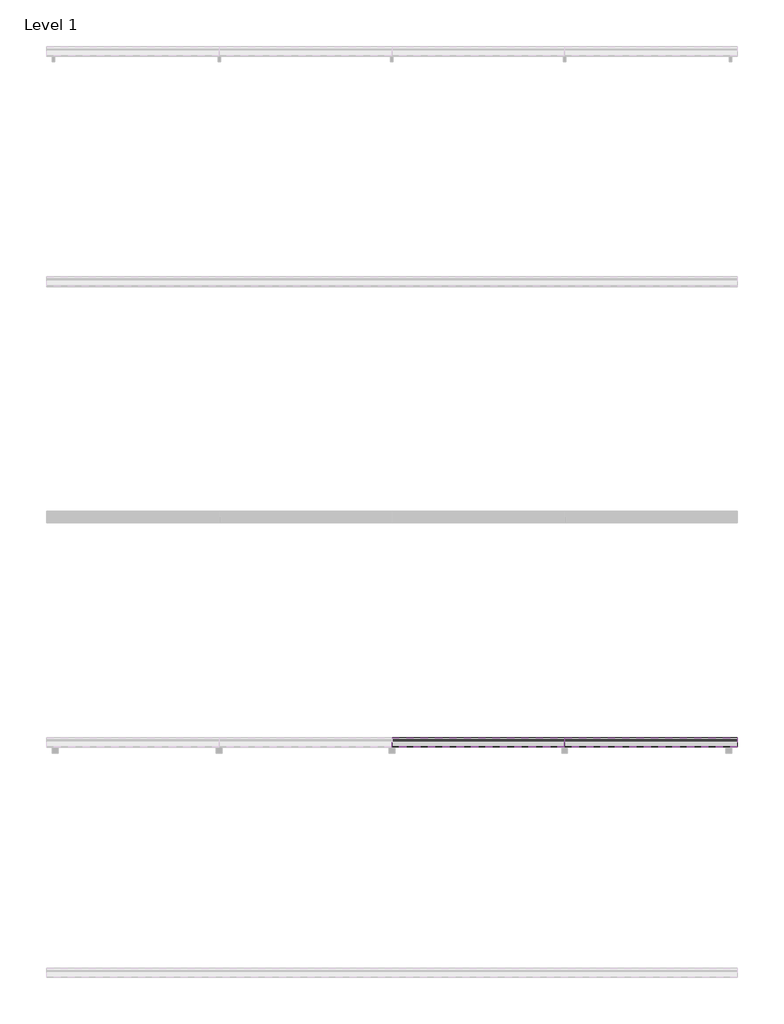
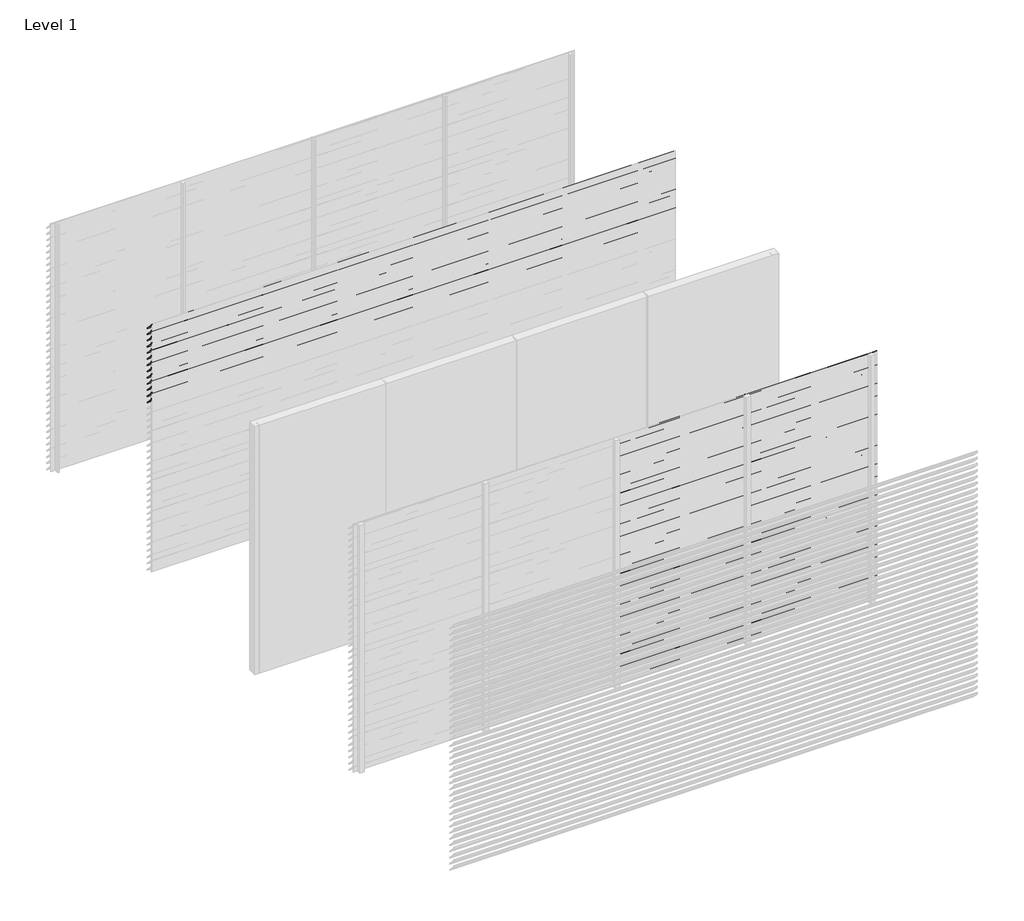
# One storey, part 5 of 9: 94 proxies.
"""IFC4 building model written with IfcOpenShell, lengths in millimetres."""

from ifc_helpers import new_model, si_unit, frame, origin, place, context, project, spatial, polyline, outline, extrude, element, save

model = new_model("IFC4")

# Units and contexts
model_context = context("Model", 3, world=origin())
ifc_project = project(units=[si_unit("LENGTHUNIT", "METRE", prefix="MILLI")], contexts=[model_context])

# Site, building, storey
site = spatial("IfcSite", under=ifc_project)
building = spatial("IfcBuilding", under=site)
storey = spatial("IfcBuildingStorey", under=building, Name="Level 1", Elevation=0.0)

# Proxies
placement = place(None, origin())
element("IfcBuildingElementProxy", 1, Name="Wall Sweeps", at=placement, inside=storey, context=model_context, shape_type="SweptSolid", body=[
    extrude(outline(polyline([(-7995.0, 3000.0), (-7995.0, 2987.7713645), (-7917.0, 2907.0), (-7917.0, 2898.0), (-7997.0, 2980.8424251), (-7997.0, 3000.0), (-7995.0, 3000.0)])), frame((0.0, 0.0, 0.0), z_axis=(1.0, 0.0, 0.0), x_axis=(0.0, 1.0, 0.0)), (0.0, 0.0, 1.0), 6000.0),
])
element("IfcBuildingElementProxy", 2, Name="Wall Sweeps", at=placement, inside=storey, context=model_context, shape_type="SweptSolid", body=[
    extrude(outline(polyline([(-7995.0, 2925.0), (-7995.0, 2912.7713645), (-7917.0, 2832.0), (-7917.0, 2823.0), (-7997.0, 2905.8424251), (-7997.0, 2925.0), (-7995.0, 2925.0)])), frame((0.0, 0.0, 0.0), z_axis=(1.0, 0.0, 0.0), x_axis=(0.0, 1.0, 0.0)), (0.0, 0.0, 1.0), 6000.0),
])
element("IfcBuildingElementProxy", 3, Name="Wall Sweeps", at=placement, inside=storey, context=model_context, shape_type="SweptSolid", body=[
    extrude(outline(polyline([(-7995.0, 2850.0), (-7995.0, 2837.7713645), (-7917.0, 2757.0), (-7917.0, 2748.0), (-7997.0, 2830.8424251), (-7997.0, 2850.0), (-7995.0, 2850.0)])), frame((0.0, 0.0, 0.0), z_axis=(1.0, 0.0, 0.0), x_axis=(0.0, 1.0, 0.0)), (0.0, 0.0, 1.0), 6000.0),
])
element("IfcBuildingElementProxy", 4, Name="Wall Sweeps", at=placement, inside=storey, context=model_context, shape_type="SweptSolid", body=[
    extrude(outline(polyline([(-7995.0, 2775.0), (-7995.0, 2762.7713645), (-7917.0, 2682.0), (-7917.0, 2673.0), (-7997.0, 2755.8424251), (-7997.0, 2775.0), (-7995.0, 2775.0)])), frame((0.0, 0.0, 0.0), z_axis=(1.0, 0.0, 0.0), x_axis=(0.0, 1.0, 0.0)), (0.0, 0.0, 1.0), 6000.0),
])
element("IfcBuildingElementProxy", 5, Name="Wall Sweeps", at=placement, inside=storey, context=model_context, shape_type="SweptSolid", body=[
    extrude(outline(polyline([(-7995.0, 2700.0), (-7995.0, 2687.7713645), (-7917.0, 2607.0), (-7917.0, 2598.0), (-7997.0, 2680.8424251), (-7997.0, 2700.0), (-7995.0, 2700.0)])), frame((0.0, 0.0, 0.0), z_axis=(1.0, 0.0, 0.0), x_axis=(0.0, 1.0, 0.0)), (0.0, 0.0, 1.0), 6000.0),
])
element("IfcBuildingElementProxy", 6, Name="Wall Sweeps", at=placement, inside=storey, context=model_context, shape_type="SweptSolid", body=[
    extrude(outline(polyline([(-7995.0, 2625.0), (-7995.0, 2612.7713645), (-7917.0, 2532.0), (-7917.0, 2523.0), (-7997.0, 2605.8424251), (-7997.0, 2625.0), (-7995.0, 2625.0)])), frame((0.0, 0.0, 0.0), z_axis=(1.0, 0.0, 0.0), x_axis=(0.0, 1.0, 0.0)), (0.0, 0.0, 1.0), 6000.0),
])
element("IfcBuildingElementProxy", 7, Name="Wall Sweeps", at=placement, inside=storey, context=model_context, shape_type="SweptSolid", body=[
    extrude(outline(polyline([(-7995.0, 2550.0), (-7995.0, 2537.7713645), (-7917.0, 2457.0), (-7917.0, 2448.0), (-7997.0, 2530.8424251), (-7997.0, 2550.0), (-7995.0, 2550.0)])), frame((0.0, 0.0, 0.0), z_axis=(1.0, 0.0, 0.0), x_axis=(0.0, 1.0, 0.0)), (0.0, 0.0, 1.0), 6000.0),
])
element("IfcBuildingElementProxy", 8, Name="Wall Sweeps", at=placement, inside=storey, context=model_context, shape_type="SweptSolid", body=[
    extrude(outline(polyline([(-7995.0, 2475.0), (-7995.0, 2462.7713645), (-7917.0, 2382.0), (-7917.0, 2373.0), (-7997.0, 2455.8424251), (-7997.0, 2475.0), (-7995.0, 2475.0)])), frame((0.0, 0.0, 0.0), z_axis=(1.0, 0.0, 0.0), x_axis=(0.0, 1.0, 0.0)), (0.0, 0.0, 1.0), 6000.0),
])
element("IfcBuildingElementProxy", 9, Name="Wall Sweeps", at=placement, inside=storey, context=model_context, shape_type="SweptSolid", body=[
    extrude(outline(polyline([(-7995.0, 2400.0), (-7995.0, 2387.7713645), (-7917.0, 2307.0), (-7917.0, 2298.0), (-7997.0, 2380.8424251), (-7997.0, 2400.0), (-7995.0, 2400.0)])), frame((0.0, 0.0, 0.0), z_axis=(1.0, 0.0, 0.0), x_axis=(0.0, 1.0, 0.0)), (0.0, 0.0, 1.0), 6000.0),
])
element("IfcBuildingElementProxy", 10, Name="Wall Sweeps", at=placement, inside=storey, context=model_context, shape_type="SweptSolid", body=[
    extrude(outline(polyline([(-7995.0, 2325.0), (-7995.0, 2312.7713645), (-7917.0, 2232.0), (-7917.0, 2223.0), (-7997.0, 2305.8424251), (-7997.0, 2325.0), (-7995.0, 2325.0)])), frame((0.0, 0.0, 0.0), z_axis=(1.0, 0.0, 0.0), x_axis=(0.0, 1.0, 0.0)), (0.0, 0.0, 1.0), 6000.0),
])
element("IfcBuildingElementProxy", 11, Name="Wall Sweeps", at=placement, inside=storey, context=model_context, shape_type="SweptSolid", body=[
    extrude(outline(polyline([(-7995.0, 2250.0), (-7995.0, 2237.7713645), (-7917.0, 2157.0), (-7917.0, 2148.0), (-7997.0, 2230.8424251), (-7997.0, 2250.0), (-7995.0, 2250.0)])), frame((0.0, 0.0, 0.0), z_axis=(1.0, 0.0, 0.0), x_axis=(0.0, 1.0, 0.0)), (0.0, 0.0, 1.0), 6000.0),
])
element("IfcBuildingElementProxy", 12, Name="Wall Sweeps", at=placement, inside=storey, context=model_context, shape_type="SweptSolid", body=[
    extrude(outline(polyline([(-7995.0, 2175.0), (-7995.0, 2162.7713645), (-7917.0, 2082.0), (-7917.0, 2073.0), (-7997.0, 2155.8424251), (-7997.0, 2175.0), (-7995.0, 2175.0)])), frame((0.0, 0.0, 0.0), z_axis=(1.0, 0.0, 0.0), x_axis=(0.0, 1.0, 0.0)), (0.0, 0.0, 1.0), 6000.0),
])
element("IfcBuildingElementProxy", 13, Name="Wall Sweeps", at=placement, inside=storey, context=model_context, shape_type="SweptSolid", body=[
    extrude(outline(polyline([(-7995.0, 2100.0), (-7995.0, 2087.7713645), (-7917.0, 2007.0), (-7917.0, 1998.0), (-7997.0, 2080.8424251), (-7997.0, 2100.0), (-7995.0, 2100.0)])), frame((0.0, 0.0, 0.0), z_axis=(1.0, 0.0, 0.0), x_axis=(0.0, 1.0, 0.0)), (0.0, 0.0, 1.0), 6000.0),
])
element("IfcBuildingElementProxy", 14, Name="Wall Sweeps", at=placement, inside=storey, context=model_context, shape_type="SweptSolid", body=[
    extrude(outline(polyline([(-11995.0, 75.0), (-11995.0, 62.7713645), (-11917.0, -18.0), (-11917.0, -27.0), (-11997.0, 55.8424251), (-11997.0, 75.0), (-11995.0, 75.0)])), frame((1500.0, 0.0, 0.0), z_axis=(1.0, 0.0, 0.0), x_axis=(0.0, 1.0, 0.0)), (0.0, 0.0, 1.0), 1500.0),
])
element("IfcBuildingElementProxy", 15, Name="Wall Sweeps", at=placement, inside=storey, context=model_context, shape_type="SweptSolid", body=[
    extrude(outline(polyline([(-11995.0, 3000.0), (-11995.0, 2987.7713645), (-11917.0, 2907.0), (-11917.0, 2898.0), (-11997.0, 2980.8424251), (-11997.0, 3000.0), (-11995.0, 3000.0)])), frame((3000.0, 0.0, 0.0), z_axis=(1.0, 0.0, 0.0), x_axis=(0.0, 1.0, 0.0)), (0.0, 0.0, 1.0), 1500.0),
])
element("IfcBuildingElementProxy", 16, Name="Wall Sweeps", at=placement, inside=storey, context=model_context, shape_type="SweptSolid", body=[
    extrude(outline(polyline([(-11995.0, 2925.0), (-11995.0, 2912.7713645), (-11917.0, 2832.0), (-11917.0, 2823.0), (-11997.0, 2905.8424251), (-11997.0, 2925.0), (-11995.0, 2925.0)])), frame((3000.0, 0.0, 0.0), z_axis=(1.0, 0.0, 0.0), x_axis=(0.0, 1.0, 0.0)), (0.0, 0.0, 1.0), 1500.0),
])
element("IfcBuildingElementProxy", 17, Name="Wall Sweeps", at=placement, inside=storey, context=model_context, shape_type="SweptSolid", body=[
    extrude(outline(polyline([(-11995.0, 2850.0), (-11995.0, 2837.7713645), (-11917.0, 2757.0), (-11917.0, 2748.0), (-11997.0, 2830.8424251), (-11997.0, 2850.0), (-11995.0, 2850.0)])), frame((3000.0, 0.0, 0.0), z_axis=(1.0, 0.0, 0.0), x_axis=(0.0, 1.0, 0.0)), (0.0, 0.0, 1.0), 1500.0),
])
element("IfcBuildingElementProxy", 18, Name="Wall Sweeps", at=placement, inside=storey, context=model_context, shape_type="SweptSolid", body=[
    extrude(outline(polyline([(-11995.0, 2775.0), (-11995.0, 2762.7713645), (-11917.0, 2682.0), (-11917.0, 2673.0), (-11997.0, 2755.8424251), (-11997.0, 2775.0), (-11995.0, 2775.0)])), frame((3000.0, 0.0, 0.0), z_axis=(1.0, 0.0, 0.0), x_axis=(0.0, 1.0, 0.0)), (0.0, 0.0, 1.0), 1500.0),
])
element("IfcBuildingElementProxy", 19, Name="Wall Sweeps", at=placement, inside=storey, context=model_context, shape_type="SweptSolid", body=[
    extrude(outline(polyline([(-11995.0, 2700.0), (-11995.0, 2687.7713645), (-11917.0, 2607.0), (-11917.0, 2598.0), (-11997.0, 2680.8424251), (-11997.0, 2700.0), (-11995.0, 2700.0)])), frame((3000.0, 0.0, 0.0), z_axis=(1.0, 0.0, 0.0), x_axis=(0.0, 1.0, 0.0)), (0.0, 0.0, 1.0), 1500.0),
])
element("IfcBuildingElementProxy", 20, Name="Wall Sweeps", at=placement, inside=storey, context=model_context, shape_type="SweptSolid", body=[
    extrude(outline(polyline([(-11995.0, 2625.0), (-11995.0, 2612.7713645), (-11917.0, 2532.0), (-11917.0, 2523.0), (-11997.0, 2605.8424251), (-11997.0, 2625.0), (-11995.0, 2625.0)])), frame((3000.0, 0.0, 0.0), z_axis=(1.0, 0.0, 0.0), x_axis=(0.0, 1.0, 0.0)), (0.0, 0.0, 1.0), 1500.0),
])
element("IfcBuildingElementProxy", 21, Name="Wall Sweeps", at=placement, inside=storey, context=model_context, shape_type="SweptSolid", body=[
    extrude(outline(polyline([(-11995.0, 2550.0), (-11995.0, 2537.7713645), (-11917.0, 2457.0), (-11917.0, 2448.0), (-11997.0, 2530.8424251), (-11997.0, 2550.0), (-11995.0, 2550.0)])), frame((3000.0, 0.0, 0.0), z_axis=(1.0, 0.0, 0.0), x_axis=(0.0, 1.0, 0.0)), (0.0, 0.0, 1.0), 1500.0),
])
element("IfcBuildingElementProxy", 22, Name="Wall Sweeps", at=placement, inside=storey, context=model_context, shape_type="SweptSolid", body=[
    extrude(outline(polyline([(-11995.0, 2475.0), (-11995.0, 2462.7713645), (-11917.0, 2382.0), (-11917.0, 2373.0), (-11997.0, 2455.8424251), (-11997.0, 2475.0), (-11995.0, 2475.0)])), frame((3000.0, 0.0, 0.0), z_axis=(1.0, 0.0, 0.0), x_axis=(0.0, 1.0, 0.0)), (0.0, 0.0, 1.0), 1500.0),
])
element("IfcBuildingElementProxy", 23, Name="Wall Sweeps", at=placement, inside=storey, context=model_context, shape_type="SweptSolid", body=[
    extrude(outline(polyline([(-11995.0, 2400.0), (-11995.0, 2387.7713645), (-11917.0, 2307.0), (-11917.0, 2298.0), (-11997.0, 2380.8424251), (-11997.0, 2400.0), (-11995.0, 2400.0)])), frame((3000.0, 0.0, 0.0), z_axis=(1.0, 0.0, 0.0), x_axis=(0.0, 1.0, 0.0)), (0.0, 0.0, 1.0), 1500.0),
])
element("IfcBuildingElementProxy", 24, Name="Wall Sweeps", at=placement, inside=storey, context=model_context, shape_type="SweptSolid", body=[
    extrude(outline(polyline([(-11995.0, 2325.0), (-11995.0, 2312.7713645), (-11917.0, 2232.0), (-11917.0, 2223.0), (-11997.0, 2305.8424251), (-11997.0, 2325.0), (-11995.0, 2325.0)])), frame((3000.0, 0.0, 0.0), z_axis=(1.0, 0.0, 0.0), x_axis=(0.0, 1.0, 0.0)), (0.0, 0.0, 1.0), 1500.0),
])
element("IfcBuildingElementProxy", 25, Name="Wall Sweeps", at=placement, inside=storey, context=model_context, shape_type="SweptSolid", body=[
    extrude(outline(polyline([(-11995.0, 2250.0), (-11995.0, 2237.7713645), (-11917.0, 2157.0), (-11917.0, 2148.0), (-11997.0, 2230.8424251), (-11997.0, 2250.0), (-11995.0, 2250.0)])), frame((3000.0, 0.0, 0.0), z_axis=(1.0, 0.0, 0.0), x_axis=(0.0, 1.0, 0.0)), (0.0, 0.0, 1.0), 1500.0),
])
element("IfcBuildingElementProxy", 26, Name="Wall Sweeps", at=placement, inside=storey, context=model_context, shape_type="SweptSolid", body=[
    extrude(outline(polyline([(-11995.0, 2175.0), (-11995.0, 2162.7713645), (-11917.0, 2082.0), (-11917.0, 2073.0), (-11997.0, 2155.8424251), (-11997.0, 2175.0), (-11995.0, 2175.0)])), frame((3000.0, 0.0, 0.0), z_axis=(1.0, 0.0, 0.0), x_axis=(0.0, 1.0, 0.0)), (0.0, 0.0, 1.0), 1500.0),
])
element("IfcBuildingElementProxy", 27, Name="Wall Sweeps", at=placement, inside=storey, context=model_context, shape_type="SweptSolid", body=[
    extrude(outline(polyline([(-11995.0, 2100.0), (-11995.0, 2087.7713645), (-11917.0, 2007.0), (-11917.0, 1998.0), (-11997.0, 2080.8424251), (-11997.0, 2100.0), (-11995.0, 2100.0)])), frame((3000.0, 0.0, 0.0), z_axis=(1.0, 0.0, 0.0), x_axis=(0.0, 1.0, 0.0)), (0.0, 0.0, 1.0), 1500.0),
])
element("IfcBuildingElementProxy", 28, Name="Wall Sweeps", at=placement, inside=storey, context=model_context, shape_type="SweptSolid", body=[
    extrude(outline(polyline([(-11995.0, 2025.0), (-11995.0, 2012.7713645), (-11917.0, 1932.0), (-11917.0, 1923.0), (-11997.0, 2005.8424251), (-11997.0, 2025.0), (-11995.0, 2025.0)])), frame((3000.0, 0.0, 0.0), z_axis=(1.0, 0.0, 0.0), x_axis=(0.0, 1.0, 0.0)), (0.0, 0.0, 1.0), 1500.0),
])
element("IfcBuildingElementProxy", 29, Name="Wall Sweeps", at=placement, inside=storey, context=model_context, shape_type="SweptSolid", body=[
    extrude(outline(polyline([(-11995.0, 1950.0), (-11995.0, 1937.7713645), (-11917.0, 1857.0), (-11917.0, 1848.0), (-11997.0, 1930.8424251), (-11997.0, 1950.0), (-11995.0, 1950.0)])), frame((3000.0, 0.0, 0.0), z_axis=(1.0, 0.0, 0.0), x_axis=(0.0, 1.0, 0.0)), (0.0, 0.0, 1.0), 1500.0),
])
element("IfcBuildingElementProxy", 30, Name="Wall Sweeps", at=placement, inside=storey, context=model_context, shape_type="SweptSolid", body=[
    extrude(outline(polyline([(-11995.0, 1875.0), (-11995.0, 1862.7713645), (-11917.0, 1782.0), (-11917.0, 1773.0), (-11997.0, 1855.8424251), (-11997.0, 1875.0), (-11995.0, 1875.0)])), frame((3000.0, 0.0, 0.0), z_axis=(1.0, 0.0, 0.0), x_axis=(0.0, 1.0, 0.0)), (0.0, 0.0, 1.0), 1500.0),
])
element("IfcBuildingElementProxy", 31, Name="Wall Sweeps", at=placement, inside=storey, context=model_context, shape_type="SweptSolid", body=[
    extrude(outline(polyline([(-11995.0, 1800.0), (-11995.0, 1787.7713645), (-11917.0, 1707.0), (-11917.0, 1698.0), (-11997.0, 1780.8424251), (-11997.0, 1800.0), (-11995.0, 1800.0)])), frame((3000.0, 0.0, 0.0), z_axis=(1.0, 0.0, 0.0), x_axis=(0.0, 1.0, 0.0)), (0.0, 0.0, 1.0), 1500.0),
])
element("IfcBuildingElementProxy", 32, Name="Wall Sweeps", at=placement, inside=storey, context=model_context, shape_type="SweptSolid", body=[
    extrude(outline(polyline([(-11995.0, 1725.0), (-11995.0, 1712.7713645), (-11917.0, 1632.0), (-11917.0, 1623.0), (-11997.0, 1705.8424251), (-11997.0, 1725.0), (-11995.0, 1725.0)])), frame((3000.0, 0.0, 0.0), z_axis=(1.0, 0.0, 0.0), x_axis=(0.0, 1.0, 0.0)), (0.0, 0.0, 1.0), 1500.0),
])
element("IfcBuildingElementProxy", 33, Name="Wall Sweeps", at=placement, inside=storey, context=model_context, shape_type="SweptSolid", body=[
    extrude(outline(polyline([(-11995.0, 1650.0), (-11995.0, 1637.7713645), (-11917.0, 1557.0), (-11917.0, 1548.0), (-11997.0, 1630.8424251), (-11997.0, 1650.0), (-11995.0, 1650.0)])), frame((3000.0, 0.0, 0.0), z_axis=(1.0, 0.0, 0.0), x_axis=(0.0, 1.0, 0.0)), (0.0, 0.0, 1.0), 1500.0),
])
element("IfcBuildingElementProxy", 34, Name="Wall Sweeps", at=placement, inside=storey, context=model_context, shape_type="SweptSolid", body=[
    extrude(outline(polyline([(-11995.0, 1575.0), (-11995.0, 1562.7713645), (-11917.0, 1482.0), (-11917.0, 1473.0), (-11997.0, 1555.8424251), (-11997.0, 1575.0), (-11995.0, 1575.0)])), frame((3000.0, 0.0, 0.0), z_axis=(1.0, 0.0, 0.0), x_axis=(0.0, 1.0, 0.0)), (0.0, 0.0, 1.0), 1500.0),
])
element("IfcBuildingElementProxy", 35, Name="Wall Sweeps", at=placement, inside=storey, context=model_context, shape_type="SweptSolid", body=[
    extrude(outline(polyline([(-11995.0, 1500.0), (-11995.0, 1487.7713645), (-11917.0, 1407.0), (-11917.0, 1398.0), (-11997.0, 1480.8424251), (-11997.0, 1500.0), (-11995.0, 1500.0)])), frame((3000.0, 0.0, 0.0), z_axis=(1.0, 0.0, 0.0), x_axis=(0.0, 1.0, 0.0)), (0.0, 0.0, 1.0), 1500.0),
])
element("IfcBuildingElementProxy", 36, Name="Wall Sweeps", at=placement, inside=storey, context=model_context, shape_type="SweptSolid", body=[
    extrude(outline(polyline([(-11995.0, 1425.0), (-11995.0, 1412.7713645), (-11917.0, 1332.0), (-11917.0, 1323.0), (-11997.0, 1405.8424251), (-11997.0, 1425.0), (-11995.0, 1425.0)])), frame((3000.0, 0.0, 0.0), z_axis=(1.0, 0.0, 0.0), x_axis=(0.0, 1.0, 0.0)), (0.0, 0.0, 1.0), 1500.0),
])
element("IfcBuildingElementProxy", 37, Name="Wall Sweeps", at=placement, inside=storey, context=model_context, shape_type="SweptSolid", body=[
    extrude(outline(polyline([(-11995.0, 1350.0), (-11995.0, 1337.7713645), (-11917.0, 1257.0), (-11917.0, 1248.0), (-11997.0, 1330.8424251), (-11997.0, 1350.0), (-11995.0, 1350.0)])), frame((3000.0, 0.0, 0.0), z_axis=(1.0, 0.0, 0.0), x_axis=(0.0, 1.0, 0.0)), (0.0, 0.0, 1.0), 1500.0),
])
element("IfcBuildingElementProxy", 38, Name="Wall Sweeps", at=placement, inside=storey, context=model_context, shape_type="SweptSolid", body=[
    extrude(outline(polyline([(-11995.0, 1275.0), (-11995.0, 1262.7713645), (-11917.0, 1182.0), (-11917.0, 1173.0), (-11997.0, 1255.8424251), (-11997.0, 1275.0), (-11995.0, 1275.0)])), frame((3000.0, 0.0, 0.0), z_axis=(1.0, 0.0, 0.0), x_axis=(0.0, 1.0, 0.0)), (0.0, 0.0, 1.0), 1500.0),
])
element("IfcBuildingElementProxy", 39, Name="Wall Sweeps", at=placement, inside=storey, context=model_context, shape_type="SweptSolid", body=[
    extrude(outline(polyline([(-11995.0, 1200.0), (-11995.0, 1187.7713645), (-11917.0, 1107.0), (-11917.0, 1098.0), (-11997.0, 1180.8424251), (-11997.0, 1200.0), (-11995.0, 1200.0)])), frame((3000.0, 0.0, 0.0), z_axis=(1.0, 0.0, 0.0), x_axis=(0.0, 1.0, 0.0)), (0.0, 0.0, 1.0), 1500.0),
])
element("IfcBuildingElementProxy", 40, Name="Wall Sweeps", at=placement, inside=storey, context=model_context, shape_type="SweptSolid", body=[
    extrude(outline(polyline([(-11995.0, 1125.0), (-11995.0, 1112.7713645), (-11917.0, 1032.0), (-11917.0, 1023.0), (-11997.0, 1105.8424251), (-11997.0, 1125.0), (-11995.0, 1125.0)])), frame((3000.0, 0.0, 0.0), z_axis=(1.0, 0.0, 0.0), x_axis=(0.0, 1.0, 0.0)), (0.0, 0.0, 1.0), 1500.0),
])
element("IfcBuildingElementProxy", 41, Name="Wall Sweeps", at=placement, inside=storey, context=model_context, shape_type="SweptSolid", body=[
    extrude(outline(polyline([(-11995.0, 1050.0), (-11995.0, 1037.7713645), (-11917.0, 957.0), (-11917.0, 948.0), (-11997.0, 1030.8424251), (-11997.0, 1050.0), (-11995.0, 1050.0)])), frame((3000.0, 0.0, 0.0), z_axis=(1.0, 0.0, 0.0), x_axis=(0.0, 1.0, 0.0)), (0.0, 0.0, 1.0), 1500.0),
])
element("IfcBuildingElementProxy", 42, Name="Wall Sweeps", at=placement, inside=storey, context=model_context, shape_type="SweptSolid", body=[
    extrude(outline(polyline([(-11995.0, 975.0), (-11995.0, 962.7713645), (-11917.0, 882.0), (-11917.0, 873.0), (-11997.0, 955.8424251), (-11997.0, 975.0), (-11995.0, 975.0)])), frame((3000.0, 0.0, 0.0), z_axis=(1.0, 0.0, 0.0), x_axis=(0.0, 1.0, 0.0)), (0.0, 0.0, 1.0), 1500.0),
])
element("IfcBuildingElementProxy", 43, Name="Wall Sweeps", at=placement, inside=storey, context=model_context, shape_type="SweptSolid", body=[
    extrude(outline(polyline([(-11995.0, 900.0), (-11995.0, 887.7713645), (-11917.0, 807.0), (-11917.0, 798.0), (-11997.0, 880.8424251), (-11997.0, 900.0), (-11995.0, 900.0)])), frame((3000.0, 0.0, 0.0), z_axis=(1.0, 0.0, 0.0), x_axis=(0.0, 1.0, 0.0)), (0.0, 0.0, 1.0), 1500.0),
])
element("IfcBuildingElementProxy", 44, Name="Wall Sweeps", at=placement, inside=storey, context=model_context, shape_type="SweptSolid", body=[
    extrude(outline(polyline([(-11995.0, 825.0), (-11995.0, 812.7713645), (-11917.0, 732.0), (-11917.0, 723.0), (-11997.0, 805.8424251), (-11997.0, 825.0), (-11995.0, 825.0)])), frame((3000.0, 0.0, 0.0), z_axis=(1.0, 0.0, 0.0), x_axis=(0.0, 1.0, 0.0)), (0.0, 0.0, 1.0), 1500.0),
])
element("IfcBuildingElementProxy", 45, Name="Wall Sweeps", at=placement, inside=storey, context=model_context, shape_type="SweptSolid", body=[
    extrude(outline(polyline([(-11995.0, 750.0), (-11995.0, 737.7713645), (-11917.0, 657.0), (-11917.0, 648.0), (-11997.0, 730.8424251), (-11997.0, 750.0), (-11995.0, 750.0)])), frame((3000.0, 0.0, 0.0), z_axis=(1.0, 0.0, 0.0), x_axis=(0.0, 1.0, 0.0)), (0.0, 0.0, 1.0), 1500.0),
])
element("IfcBuildingElementProxy", 46, Name="Wall Sweeps", at=placement, inside=storey, context=model_context, shape_type="SweptSolid", body=[
    extrude(outline(polyline([(-11995.0, 675.0), (-11995.0, 662.7713645), (-11917.0, 582.0), (-11917.0, 573.0), (-11997.0, 655.8424251), (-11997.0, 675.0), (-11995.0, 675.0)])), frame((3000.0, 0.0, 0.0), z_axis=(1.0, 0.0, 0.0), x_axis=(0.0, 1.0, 0.0)), (0.0, 0.0, 1.0), 1500.0),
])
element("IfcBuildingElementProxy", 47, Name="Wall Sweeps", at=placement, inside=storey, context=model_context, shape_type="SweptSolid", body=[
    extrude(outline(polyline([(-11995.0, 600.0), (-11995.0, 587.7713645), (-11917.0, 507.0), (-11917.0, 498.0), (-11997.0, 580.8424251), (-11997.0, 600.0), (-11995.0, 600.0)])), frame((3000.0, 0.0, 0.0), z_axis=(1.0, 0.0, 0.0), x_axis=(0.0, 1.0, 0.0)), (0.0, 0.0, 1.0), 1500.0),
])
element("IfcBuildingElementProxy", 48, Name="Wall Sweeps", at=placement, inside=storey, context=model_context, shape_type="SweptSolid", body=[
    extrude(outline(polyline([(-11995.0, 525.0), (-11995.0, 512.7713645), (-11917.0, 432.0), (-11917.0, 423.0), (-11997.0, 505.8424251), (-11997.0, 525.0), (-11995.0, 525.0)])), frame((3000.0, 0.0, 0.0), z_axis=(1.0, 0.0, 0.0), x_axis=(0.0, 1.0, 0.0)), (0.0, 0.0, 1.0), 1500.0),
])
element("IfcBuildingElementProxy", 49, Name="Wall Sweeps", at=placement, inside=storey, context=model_context, shape_type="SweptSolid", body=[
    extrude(outline(polyline([(-11995.0, 450.0), (-11995.0, 437.7713645), (-11917.0, 357.0), (-11917.0, 348.0), (-11997.0, 430.8424251), (-11997.0, 450.0), (-11995.0, 450.0)])), frame((3000.0, 0.0, 0.0), z_axis=(1.0, 0.0, 0.0), x_axis=(0.0, 1.0, 0.0)), (0.0, 0.0, 1.0), 1500.0),
])
element("IfcBuildingElementProxy", 50, Name="Wall Sweeps", at=placement, inside=storey, context=model_context, shape_type="SweptSolid", body=[
    extrude(outline(polyline([(-11995.0, 375.0), (-11995.0, 362.7713645), (-11917.0, 282.0), (-11917.0, 273.0), (-11997.0, 355.8424251), (-11997.0, 375.0), (-11995.0, 375.0)])), frame((3000.0, 0.0, 0.0), z_axis=(1.0, 0.0, 0.0), x_axis=(0.0, 1.0, 0.0)), (0.0, 0.0, 1.0), 1500.0),
])
element("IfcBuildingElementProxy", 51, Name="Wall Sweeps", at=placement, inside=storey, context=model_context, shape_type="SweptSolid", body=[
    extrude(outline(polyline([(-11995.0, 300.0), (-11995.0, 287.7713645), (-11917.0, 207.0), (-11917.0, 198.0), (-11997.0, 280.8424251), (-11997.0, 300.0), (-11995.0, 300.0)])), frame((3000.0, 0.0, 0.0), z_axis=(1.0, 0.0, 0.0), x_axis=(0.0, 1.0, 0.0)), (0.0, 0.0, 1.0), 1500.0),
])
element("IfcBuildingElementProxy", 52, Name="Wall Sweeps", at=placement, inside=storey, context=model_context, shape_type="SweptSolid", body=[
    extrude(outline(polyline([(-11995.0, 225.0), (-11995.0, 212.7713645), (-11917.0, 132.0), (-11917.0, 123.0), (-11997.0, 205.8424251), (-11997.0, 225.0), (-11995.0, 225.0)])), frame((3000.0, 0.0, 0.0), z_axis=(1.0, 0.0, 0.0), x_axis=(0.0, 1.0, 0.0)), (0.0, 0.0, 1.0), 1500.0),
])
element("IfcBuildingElementProxy", 53, Name="Wall Sweeps", at=placement, inside=storey, context=model_context, shape_type="SweptSolid", body=[
    extrude(outline(polyline([(-11995.0, 150.0), (-11995.0, 137.7713645), (-11917.0, 57.0), (-11917.0, 48.0), (-11997.0, 130.8424251), (-11997.0, 150.0), (-11995.0, 150.0)])), frame((3000.0, 0.0, 0.0), z_axis=(1.0, 0.0, 0.0), x_axis=(0.0, 1.0, 0.0)), (0.0, 0.0, 1.0), 1500.0),
])
element("IfcBuildingElementProxy", 54, Name="Wall Sweeps", at=placement, inside=storey, context=model_context, shape_type="SweptSolid", body=[
    extrude(outline(polyline([(-11995.0, 75.0), (-11995.0, 62.7713645), (-11917.0, -18.0), (-11917.0, -27.0), (-11997.0, 55.8424251), (-11997.0, 75.0), (-11995.0, 75.0)])), frame((3000.0, 0.0, 0.0), z_axis=(1.0, 0.0, 0.0), x_axis=(0.0, 1.0, 0.0)), (0.0, 0.0, 1.0), 1500.0),
])
element("IfcBuildingElementProxy", 55, Name="Wall Sweeps", at=placement, inside=storey, context=model_context, shape_type="SweptSolid", body=[
    extrude(outline(polyline([(-11995.0, 3000.0), (-11995.0, 2987.7713645), (-11917.0, 2907.0), (-11917.0, 2898.0), (-11997.0, 2980.8424251), (-11997.0, 3000.0), (-11995.0, 3000.0)])), frame((4500.0, 0.0, 0.0), z_axis=(1.0, 0.0, 0.0), x_axis=(0.0, 1.0, 0.0)), (0.0, 0.0, 1.0), 1500.0),
])
element("IfcBuildingElementProxy", 56, Name="Wall Sweeps", at=placement, inside=storey, context=model_context, shape_type="SweptSolid", body=[
    extrude(outline(polyline([(-11995.0, 2925.0), (-11995.0, 2912.7713645), (-11917.0, 2832.0), (-11917.0, 2823.0), (-11997.0, 2905.8424251), (-11997.0, 2925.0), (-11995.0, 2925.0)])), frame((4500.0, 0.0, 0.0), z_axis=(1.0, 0.0, 0.0), x_axis=(0.0, 1.0, 0.0)), (0.0, 0.0, 1.0), 1500.0),
])
element("IfcBuildingElementProxy", 57, Name="Wall Sweeps", at=placement, inside=storey, context=model_context, shape_type="SweptSolid", body=[
    extrude(outline(polyline([(-11995.0, 2850.0), (-11995.0, 2837.7713645), (-11917.0, 2757.0), (-11917.0, 2748.0), (-11997.0, 2830.8424251), (-11997.0, 2850.0), (-11995.0, 2850.0)])), frame((4500.0, 0.0, 0.0), z_axis=(1.0, 0.0, 0.0), x_axis=(0.0, 1.0, 0.0)), (0.0, 0.0, 1.0), 1500.0),
])
element("IfcBuildingElementProxy", 58, Name="Wall Sweeps", at=placement, inside=storey, context=model_context, shape_type="SweptSolid", body=[
    extrude(outline(polyline([(-11995.0, 2775.0), (-11995.0, 2762.7713645), (-11917.0, 2682.0), (-11917.0, 2673.0), (-11997.0, 2755.8424251), (-11997.0, 2775.0), (-11995.0, 2775.0)])), frame((4500.0, 0.0, 0.0), z_axis=(1.0, 0.0, 0.0), x_axis=(0.0, 1.0, 0.0)), (0.0, 0.0, 1.0), 1500.0),
])
element("IfcBuildingElementProxy", 59, Name="Wall Sweeps", at=placement, inside=storey, context=model_context, shape_type="SweptSolid", body=[
    extrude(outline(polyline([(-11995.0, 2700.0), (-11995.0, 2687.7713645), (-11917.0, 2607.0), (-11917.0, 2598.0), (-11997.0, 2680.8424251), (-11997.0, 2700.0), (-11995.0, 2700.0)])), frame((4500.0, 0.0, 0.0), z_axis=(1.0, 0.0, 0.0), x_axis=(0.0, 1.0, 0.0)), (0.0, 0.0, 1.0), 1500.0),
])
element("IfcBuildingElementProxy", 60, Name="Wall Sweeps", at=placement, inside=storey, context=model_context, shape_type="SweptSolid", body=[
    extrude(outline(polyline([(-11995.0, 2625.0), (-11995.0, 2612.7713645), (-11917.0, 2532.0), (-11917.0, 2523.0), (-11997.0, 2605.8424251), (-11997.0, 2625.0), (-11995.0, 2625.0)])), frame((4500.0, 0.0, 0.0), z_axis=(1.0, 0.0, 0.0), x_axis=(0.0, 1.0, 0.0)), (0.0, 0.0, 1.0), 1500.0),
])
element("IfcBuildingElementProxy", 61, Name="Wall Sweeps", at=placement, inside=storey, context=model_context, shape_type="SweptSolid", body=[
    extrude(outline(polyline([(-11995.0, 2550.0), (-11995.0, 2537.7713645), (-11917.0, 2457.0), (-11917.0, 2448.0), (-11997.0, 2530.8424251), (-11997.0, 2550.0), (-11995.0, 2550.0)])), frame((4500.0, 0.0, 0.0), z_axis=(1.0, 0.0, 0.0), x_axis=(0.0, 1.0, 0.0)), (0.0, 0.0, 1.0), 1500.0),
])
element("IfcBuildingElementProxy", 62, Name="Wall Sweeps", at=placement, inside=storey, context=model_context, shape_type="SweptSolid", body=[
    extrude(outline(polyline([(-11995.0, 2475.0), (-11995.0, 2462.7713645), (-11917.0, 2382.0), (-11917.0, 2373.0), (-11997.0, 2455.8424251), (-11997.0, 2475.0), (-11995.0, 2475.0)])), frame((4500.0, 0.0, 0.0), z_axis=(1.0, 0.0, 0.0), x_axis=(0.0, 1.0, 0.0)), (0.0, 0.0, 1.0), 1500.0),
])
element("IfcBuildingElementProxy", 63, Name="Wall Sweeps", at=placement, inside=storey, context=model_context, shape_type="SweptSolid", body=[
    extrude(outline(polyline([(-11995.0, 2400.0), (-11995.0, 2387.7713645), (-11917.0, 2307.0), (-11917.0, 2298.0), (-11997.0, 2380.8424251), (-11997.0, 2400.0), (-11995.0, 2400.0)])), frame((4500.0, 0.0, 0.0), z_axis=(1.0, 0.0, 0.0), x_axis=(0.0, 1.0, 0.0)), (0.0, 0.0, 1.0), 1500.0),
])
element("IfcBuildingElementProxy", 64, Name="Wall Sweeps", at=placement, inside=storey, context=model_context, shape_type="SweptSolid", body=[
    extrude(outline(polyline([(-11995.0, 2325.0), (-11995.0, 2312.7713645), (-11917.0, 2232.0), (-11917.0, 2223.0), (-11997.0, 2305.8424251), (-11997.0, 2325.0), (-11995.0, 2325.0)])), frame((4500.0, 0.0, 0.0), z_axis=(1.0, 0.0, 0.0), x_axis=(0.0, 1.0, 0.0)), (0.0, 0.0, 1.0), 1500.0),
])
element("IfcBuildingElementProxy", 65, Name="Wall Sweeps", at=placement, inside=storey, context=model_context, shape_type="SweptSolid", body=[
    extrude(outline(polyline([(-11995.0, 2250.0), (-11995.0, 2237.7713645), (-11917.0, 2157.0), (-11917.0, 2148.0), (-11997.0, 2230.8424251), (-11997.0, 2250.0), (-11995.0, 2250.0)])), frame((4500.0, 0.0, 0.0), z_axis=(1.0, 0.0, 0.0), x_axis=(0.0, 1.0, 0.0)), (0.0, 0.0, 1.0), 1500.0),
])
element("IfcBuildingElementProxy", 66, Name="Wall Sweeps", at=placement, inside=storey, context=model_context, shape_type="SweptSolid", body=[
    extrude(outline(polyline([(-11995.0, 2175.0), (-11995.0, 2162.7713645), (-11917.0, 2082.0), (-11917.0, 2073.0), (-11997.0, 2155.8424251), (-11997.0, 2175.0), (-11995.0, 2175.0)])), frame((4500.0, 0.0, 0.0), z_axis=(1.0, 0.0, 0.0), x_axis=(0.0, 1.0, 0.0)), (0.0, 0.0, 1.0), 1500.0),
])
element("IfcBuildingElementProxy", 67, Name="Wall Sweeps", at=placement, inside=storey, context=model_context, shape_type="SweptSolid", body=[
    extrude(outline(polyline([(-11995.0, 2100.0), (-11995.0, 2087.7713645), (-11917.0, 2007.0), (-11917.0, 1998.0), (-11997.0, 2080.8424251), (-11997.0, 2100.0), (-11995.0, 2100.0)])), frame((4500.0, 0.0, 0.0), z_axis=(1.0, 0.0, 0.0), x_axis=(0.0, 1.0, 0.0)), (0.0, 0.0, 1.0), 1500.0),
])
element("IfcBuildingElementProxy", 68, Name="Wall Sweeps", at=placement, inside=storey, context=model_context, shape_type="SweptSolid", body=[
    extrude(outline(polyline([(-11995.0, 2025.0), (-11995.0, 2012.7713645), (-11917.0, 1932.0), (-11917.0, 1923.0), (-11997.0, 2005.8424251), (-11997.0, 2025.0), (-11995.0, 2025.0)])), frame((4500.0, 0.0, 0.0), z_axis=(1.0, 0.0, 0.0), x_axis=(0.0, 1.0, 0.0)), (0.0, 0.0, 1.0), 1500.0),
])
element("IfcBuildingElementProxy", 69, Name="Wall Sweeps", at=placement, inside=storey, context=model_context, shape_type="SweptSolid", body=[
    extrude(outline(polyline([(-11995.0, 1950.0), (-11995.0, 1937.7713645), (-11917.0, 1857.0), (-11917.0, 1848.0), (-11997.0, 1930.8424251), (-11997.0, 1950.0), (-11995.0, 1950.0)])), frame((4500.0, 0.0, 0.0), z_axis=(1.0, 0.0, 0.0), x_axis=(0.0, 1.0, 0.0)), (0.0, 0.0, 1.0), 1500.0),
])
element("IfcBuildingElementProxy", 70, Name="Wall Sweeps", at=placement, inside=storey, context=model_context, shape_type="SweptSolid", body=[
    extrude(outline(polyline([(-11995.0, 1875.0), (-11995.0, 1862.7713645), (-11917.0, 1782.0), (-11917.0, 1773.0), (-11997.0, 1855.8424251), (-11997.0, 1875.0), (-11995.0, 1875.0)])), frame((4500.0, 0.0, 0.0), z_axis=(1.0, 0.0, 0.0), x_axis=(0.0, 1.0, 0.0)), (0.0, 0.0, 1.0), 1500.0),
])
element("IfcBuildingElementProxy", 71, Name="Wall Sweeps", at=placement, inside=storey, context=model_context, shape_type="SweptSolid", body=[
    extrude(outline(polyline([(-11995.0, 1800.0), (-11995.0, 1787.7713645), (-11917.0, 1707.0), (-11917.0, 1698.0), (-11997.0, 1780.8424251), (-11997.0, 1800.0), (-11995.0, 1800.0)])), frame((4500.0, 0.0, 0.0), z_axis=(1.0, 0.0, 0.0), x_axis=(0.0, 1.0, 0.0)), (0.0, 0.0, 1.0), 1500.0),
])
element("IfcBuildingElementProxy", 72, Name="Wall Sweeps", at=placement, inside=storey, context=model_context, shape_type="SweptSolid", body=[
    extrude(outline(polyline([(-11995.0, 1725.0), (-11995.0, 1712.7713645), (-11917.0, 1632.0), (-11917.0, 1623.0), (-11997.0, 1705.8424251), (-11997.0, 1725.0), (-11995.0, 1725.0)])), frame((4500.0, 0.0, 0.0), z_axis=(1.0, 0.0, 0.0), x_axis=(0.0, 1.0, 0.0)), (0.0, 0.0, 1.0), 1500.0),
])
element("IfcBuildingElementProxy", 73, Name="Wall Sweeps", at=placement, inside=storey, context=model_context, shape_type="SweptSolid", body=[
    extrude(outline(polyline([(-11995.0, 1650.0), (-11995.0, 1637.7713645), (-11917.0, 1557.0), (-11917.0, 1548.0), (-11997.0, 1630.8424251), (-11997.0, 1650.0), (-11995.0, 1650.0)])), frame((4500.0, 0.0, 0.0), z_axis=(1.0, 0.0, 0.0), x_axis=(0.0, 1.0, 0.0)), (0.0, 0.0, 1.0), 1500.0),
])
element("IfcBuildingElementProxy", 74, Name="Wall Sweeps", at=placement, inside=storey, context=model_context, shape_type="SweptSolid", body=[
    extrude(outline(polyline([(-11995.0, 1575.0), (-11995.0, 1562.7713645), (-11917.0, 1482.0), (-11917.0, 1473.0), (-11997.0, 1555.8424251), (-11997.0, 1575.0), (-11995.0, 1575.0)])), frame((4500.0, 0.0, 0.0), z_axis=(1.0, 0.0, 0.0), x_axis=(0.0, 1.0, 0.0)), (0.0, 0.0, 1.0), 1500.0),
])
element("IfcBuildingElementProxy", 75, Name="Wall Sweeps", at=placement, inside=storey, context=model_context, shape_type="SweptSolid", body=[
    extrude(outline(polyline([(-11995.0, 1500.0), (-11995.0, 1487.7713645), (-11917.0, 1407.0), (-11917.0, 1398.0), (-11997.0, 1480.8424251), (-11997.0, 1500.0), (-11995.0, 1500.0)])), frame((4500.0, 0.0, 0.0), z_axis=(1.0, 0.0, 0.0), x_axis=(0.0, 1.0, 0.0)), (0.0, 0.0, 1.0), 1500.0),
])
element("IfcBuildingElementProxy", 76, Name="Wall Sweeps", at=placement, inside=storey, context=model_context, shape_type="SweptSolid", body=[
    extrude(outline(polyline([(-11995.0, 1425.0), (-11995.0, 1412.7713645), (-11917.0, 1332.0), (-11917.0, 1323.0), (-11997.0, 1405.8424251), (-11997.0, 1425.0), (-11995.0, 1425.0)])), frame((4500.0, 0.0, 0.0), z_axis=(1.0, 0.0, 0.0), x_axis=(0.0, 1.0, 0.0)), (0.0, 0.0, 1.0), 1500.0),
])
element("IfcBuildingElementProxy", 77, Name="Wall Sweeps", at=placement, inside=storey, context=model_context, shape_type="SweptSolid", body=[
    extrude(outline(polyline([(-11995.0, 1350.0), (-11995.0, 1337.7713645), (-11917.0, 1257.0), (-11917.0, 1248.0), (-11997.0, 1330.8424251), (-11997.0, 1350.0), (-11995.0, 1350.0)])), frame((4500.0, 0.0, 0.0), z_axis=(1.0, 0.0, 0.0), x_axis=(0.0, 1.0, 0.0)), (0.0, 0.0, 1.0), 1500.0),
])
element("IfcBuildingElementProxy", 78, Name="Wall Sweeps", at=placement, inside=storey, context=model_context, shape_type="SweptSolid", body=[
    extrude(outline(polyline([(-11995.0, 1275.0), (-11995.0, 1262.7713645), (-11917.0, 1182.0), (-11917.0, 1173.0), (-11997.0, 1255.8424251), (-11997.0, 1275.0), (-11995.0, 1275.0)])), frame((4500.0, 0.0, 0.0), z_axis=(1.0, 0.0, 0.0), x_axis=(0.0, 1.0, 0.0)), (0.0, 0.0, 1.0), 1500.0),
])
element("IfcBuildingElementProxy", 79, Name="Wall Sweeps", at=placement, inside=storey, context=model_context, shape_type="SweptSolid", body=[
    extrude(outline(polyline([(-11995.0, 1200.0), (-11995.0, 1187.7713645), (-11917.0, 1107.0), (-11917.0, 1098.0), (-11997.0, 1180.8424251), (-11997.0, 1200.0), (-11995.0, 1200.0)])), frame((4500.0, 0.0, 0.0), z_axis=(1.0, 0.0, 0.0), x_axis=(0.0, 1.0, 0.0)), (0.0, 0.0, 1.0), 1500.0),
])
element("IfcBuildingElementProxy", 80, Name="Wall Sweeps", at=placement, inside=storey, context=model_context, shape_type="SweptSolid", body=[
    extrude(outline(polyline([(-11995.0, 1125.0), (-11995.0, 1112.7713645), (-11917.0, 1032.0), (-11917.0, 1023.0), (-11997.0, 1105.8424251), (-11997.0, 1125.0), (-11995.0, 1125.0)])), frame((4500.0, 0.0, 0.0), z_axis=(1.0, 0.0, 0.0), x_axis=(0.0, 1.0, 0.0)), (0.0, 0.0, 1.0), 1500.0),
])
element("IfcBuildingElementProxy", 81, Name="Wall Sweeps", at=placement, inside=storey, context=model_context, shape_type="SweptSolid", body=[
    extrude(outline(polyline([(-11995.0, 1050.0), (-11995.0, 1037.7713645), (-11917.0, 957.0), (-11917.0, 948.0), (-11997.0, 1030.8424251), (-11997.0, 1050.0), (-11995.0, 1050.0)])), frame((4500.0, 0.0, 0.0), z_axis=(1.0, 0.0, 0.0), x_axis=(0.0, 1.0, 0.0)), (0.0, 0.0, 1.0), 1500.0),
])
element("IfcBuildingElementProxy", 82, Name="Wall Sweeps", at=placement, inside=storey, context=model_context, shape_type="SweptSolid", body=[
    extrude(outline(polyline([(-11995.0, 975.0), (-11995.0, 962.7713645), (-11917.0, 882.0), (-11917.0, 873.0), (-11997.0, 955.8424251), (-11997.0, 975.0), (-11995.0, 975.0)])), frame((4500.0, 0.0, 0.0), z_axis=(1.0, 0.0, 0.0), x_axis=(0.0, 1.0, 0.0)), (0.0, 0.0, 1.0), 1500.0),
])
element("IfcBuildingElementProxy", 83, Name="Wall Sweeps", at=placement, inside=storey, context=model_context, shape_type="SweptSolid", body=[
    extrude(outline(polyline([(-11995.0, 900.0), (-11995.0, 887.7713645), (-11917.0, 807.0), (-11917.0, 798.0), (-11997.0, 880.8424251), (-11997.0, 900.0), (-11995.0, 900.0)])), frame((4500.0, 0.0, 0.0), z_axis=(1.0, 0.0, 0.0), x_axis=(0.0, 1.0, 0.0)), (0.0, 0.0, 1.0), 1500.0),
])
element("IfcBuildingElementProxy", 84, Name="Wall Sweeps", at=placement, inside=storey, context=model_context, shape_type="SweptSolid", body=[
    extrude(outline(polyline([(-11995.0, 825.0), (-11995.0, 812.7713645), (-11917.0, 732.0), (-11917.0, 723.0), (-11997.0, 805.8424251), (-11997.0, 825.0), (-11995.0, 825.0)])), frame((4500.0, 0.0, 0.0), z_axis=(1.0, 0.0, 0.0), x_axis=(0.0, 1.0, 0.0)), (0.0, 0.0, 1.0), 1500.0),
])
element("IfcBuildingElementProxy", 85, Name="Wall Sweeps", at=placement, inside=storey, context=model_context, shape_type="SweptSolid", body=[
    extrude(outline(polyline([(-11995.0, 750.0), (-11995.0, 737.7713645), (-11917.0, 657.0), (-11917.0, 648.0), (-11997.0, 730.8424251), (-11997.0, 750.0), (-11995.0, 750.0)])), frame((4500.0, 0.0, 0.0), z_axis=(1.0, 0.0, 0.0), x_axis=(0.0, 1.0, 0.0)), (0.0, 0.0, 1.0), 1500.0),
])
element("IfcBuildingElementProxy", 86, Name="Wall Sweeps", at=placement, inside=storey, context=model_context, shape_type="SweptSolid", body=[
    extrude(outline(polyline([(-11995.0, 675.0), (-11995.0, 662.7713645), (-11917.0, 582.0), (-11917.0, 573.0), (-11997.0, 655.8424251), (-11997.0, 675.0), (-11995.0, 675.0)])), frame((4500.0, 0.0, 0.0), z_axis=(1.0, 0.0, 0.0), x_axis=(0.0, 1.0, 0.0)), (0.0, 0.0, 1.0), 1500.0),
])
element("IfcBuildingElementProxy", 87, Name="Wall Sweeps", at=placement, inside=storey, context=model_context, shape_type="SweptSolid", body=[
    extrude(outline(polyline([(-11995.0, 600.0), (-11995.0, 587.7713645), (-11917.0, 507.0), (-11917.0, 498.0), (-11997.0, 580.8424251), (-11997.0, 600.0), (-11995.0, 600.0)])), frame((4500.0, 0.0, 0.0), z_axis=(1.0, 0.0, 0.0), x_axis=(0.0, 1.0, 0.0)), (0.0, 0.0, 1.0), 1500.0),
])
element("IfcBuildingElementProxy", 88, Name="Wall Sweeps", at=placement, inside=storey, context=model_context, shape_type="SweptSolid", body=[
    extrude(outline(polyline([(-11995.0, 525.0), (-11995.0, 512.7713645), (-11917.0, 432.0), (-11917.0, 423.0), (-11997.0, 505.8424251), (-11997.0, 525.0), (-11995.0, 525.0)])), frame((4500.0, 0.0, 0.0), z_axis=(1.0, 0.0, 0.0), x_axis=(0.0, 1.0, 0.0)), (0.0, 0.0, 1.0), 1500.0),
])
element("IfcBuildingElementProxy", 89, Name="Wall Sweeps", at=placement, inside=storey, context=model_context, shape_type="SweptSolid", body=[
    extrude(outline(polyline([(-11995.0, 450.0), (-11995.0, 437.7713645), (-11917.0, 357.0), (-11917.0, 348.0), (-11997.0, 430.8424251), (-11997.0, 450.0), (-11995.0, 450.0)])), frame((4500.0, 0.0, 0.0), z_axis=(1.0, 0.0, 0.0), x_axis=(0.0, 1.0, 0.0)), (0.0, 0.0, 1.0), 1500.0),
])
element("IfcBuildingElementProxy", 90, Name="Wall Sweeps", at=placement, inside=storey, context=model_context, shape_type="SweptSolid", body=[
    extrude(outline(polyline([(-11995.0, 375.0), (-11995.0, 362.7713645), (-11917.0, 282.0), (-11917.0, 273.0), (-11997.0, 355.8424251), (-11997.0, 375.0), (-11995.0, 375.0)])), frame((4500.0, 0.0, 0.0), z_axis=(1.0, 0.0, 0.0), x_axis=(0.0, 1.0, 0.0)), (0.0, 0.0, 1.0), 1500.0),
])
element("IfcBuildingElementProxy", 91, Name="Wall Sweeps", at=placement, inside=storey, context=model_context, shape_type="SweptSolid", body=[
    extrude(outline(polyline([(-11995.0, 300.0), (-11995.0, 287.7713645), (-11917.0, 207.0), (-11917.0, 198.0), (-11997.0, 280.8424251), (-11997.0, 300.0), (-11995.0, 300.0)])), frame((4500.0, 0.0, 0.0), z_axis=(1.0, 0.0, 0.0), x_axis=(0.0, 1.0, 0.0)), (0.0, 0.0, 1.0), 1500.0),
])
element("IfcBuildingElementProxy", 92, Name="Wall Sweeps", at=placement, inside=storey, context=model_context, shape_type="SweptSolid", body=[
    extrude(outline(polyline([(-11995.0, 225.0), (-11995.0, 212.7713645), (-11917.0, 132.0), (-11917.0, 123.0), (-11997.0, 205.8424251), (-11997.0, 225.0), (-11995.0, 225.0)])), frame((4500.0, 0.0, 0.0), z_axis=(1.0, 0.0, 0.0), x_axis=(0.0, 1.0, 0.0)), (0.0, 0.0, 1.0), 1500.0),
])
element("IfcBuildingElementProxy", 93, Name="Wall Sweeps", at=placement, inside=storey, context=model_context, shape_type="SweptSolid", body=[
    extrude(outline(polyline([(-11995.0, 150.0), (-11995.0, 137.7713645), (-11917.0, 57.0), (-11917.0, 48.0), (-11997.0, 130.8424251), (-11997.0, 150.0), (-11995.0, 150.0)])), frame((4500.0, 0.0, 0.0), z_axis=(1.0, 0.0, 0.0), x_axis=(0.0, 1.0, 0.0)), (0.0, 0.0, 1.0), 1500.0),
])
element("IfcBuildingElementProxy", 94, Name="Wall Sweeps", at=placement, inside=storey, context=model_context, shape_type="SweptSolid", body=[
    extrude(outline(polyline([(-11995.0, 75.0), (-11995.0, 62.7713645), (-11917.0, -18.0), (-11917.0, -27.0), (-11997.0, 55.8424251), (-11997.0, 75.0), (-11995.0, 75.0)])), frame((4500.0, 0.0, 0.0), z_axis=(1.0, 0.0, 0.0), x_axis=(0.0, 1.0, 0.0)), (0.0, 0.0, 1.0), 1500.0),
])

save(model, "model.ifc")
